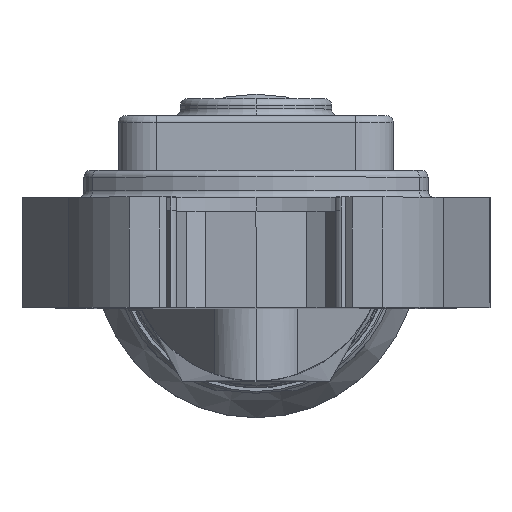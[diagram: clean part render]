
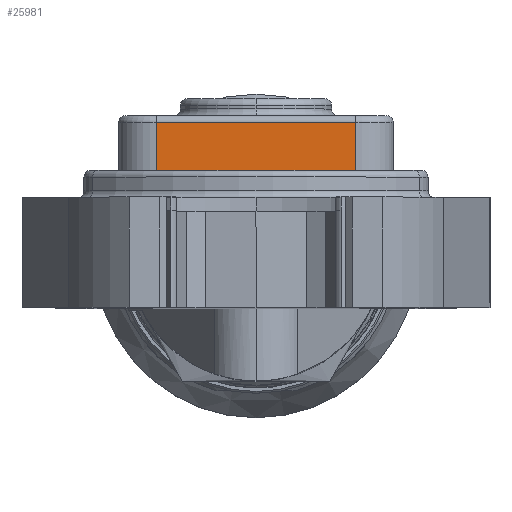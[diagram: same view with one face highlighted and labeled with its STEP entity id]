
A CAD part, top view. The second image highlights one B-rep face of the part: STEP entity #25981.
In plain terms, the highlighted planar face has unit normal (0, 0, 1).
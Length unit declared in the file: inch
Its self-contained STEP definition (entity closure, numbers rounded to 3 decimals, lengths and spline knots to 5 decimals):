
#3772 = ORIENTED_EDGE ( 'NONE', *, *, #21589, .F. ) ;
#3927 = DIRECTION ( 'NONE',  ( 0., -1., 0. ) ) ;
#4004 = CARTESIAN_POINT ( 'NONE',  ( 0.57087, 0.7874, 2.85757 ) ) ;
#4990 = ORIENTED_EDGE ( 'NONE', *, *, #17061, .T. ) ;
#8362 = ORIENTED_EDGE ( 'NONE', *, *, #21947, .T. ) ;
#8963 = EDGE_CURVE ( 'NONE', #18753, #46479, #57742, .T. ) ;
#9239 = DIRECTION ( 'NONE',  ( 0., -1., 0. ) ) ;
#9317 = DIRECTION ( 'NONE',  ( 0., 0., 1. ) ) ;
#9363 = CARTESIAN_POINT ( 'NONE',  ( 0.57087, 0.7874, 2.85757 ) ) ;
#9472 = ORIENTED_EDGE ( 'NONE', *, *, #8963, .F. ) ;
#9787 = PLANE ( 'NONE',  #31773 ) ;
#11093 = CARTESIAN_POINT ( 'NONE',  ( -0.57087, 0.74803, 2.85757 ) ) ;
#17061 = EDGE_CURVE ( 'NONE', #24137, #56154, #62264, .T. ) ;
#17340 = DIRECTION ( 'NONE',  ( -1., 0., 0. ) ) ;
#18753 = VERTEX_POINT ( 'NONE', #35369 ) ;
#19640 = CARTESIAN_POINT ( 'NONE',  ( -0.57087, 0.74803, 2.85757 ) ) ;
#21589 = EDGE_CURVE ( 'NONE', #24137, #18753, #59304, .T. ) ;
#21947 = EDGE_CURVE ( 'NONE', #56154, #46479, #42330, .T. ) ;
#24137 = VERTEX_POINT ( 'NONE', #59119 ) ;
#25981 = ADVANCED_FACE ( 'NONE', ( #36918 ), #9787, .T. ) ;
#27056 = DIRECTION ( 'NONE',  ( -1., 0., 0. ) ) ;
#27437 = CARTESIAN_POINT ( 'NONE',  ( -0.74803, 0.47244, 2.85757 ) ) ;
#31773 = AXIS2_PLACEMENT_3D ( 'NONE', #9363, #9317, #9239 ) ;
#35369 = CARTESIAN_POINT ( 'NONE',  ( 0.57087, 0.47244, 2.85757 ) ) ;
#36918 = FACE_OUTER_BOUND ( 'NONE', #45738, .T. ) ;
#42330 = LINE ( 'NONE', #44853, #42885 ) ;
#42885 = VECTOR ( 'NONE', #47953, 39.37008 ) ;
#44628 = CARTESIAN_POINT ( 'NONE',  ( -0.57087, 0.47244, 2.85757 ) ) ;
#44853 = CARTESIAN_POINT ( 'NONE',  ( -0.57087, 0.7874, 2.85757 ) ) ;
#45738 = EDGE_LOOP ( 'NONE', ( #3772, #4990, #8362, #9472 ) ) ;
#46479 = VERTEX_POINT ( 'NONE', #44628 ) ;
#47953 = DIRECTION ( 'NONE',  ( 0., -1., 0. ) ) ;
#56154 = VERTEX_POINT ( 'NONE', #11093 ) ;
#57015 = VECTOR ( 'NONE', #27056, 39.37008 ) ;
#57742 = LINE ( 'NONE', #27437, #57015 ) ;
#59119 = CARTESIAN_POINT ( 'NONE',  ( 0.57087, 0.74803, 2.85757 ) ) ;
#59240 = VECTOR ( 'NONE', #3927, 39.37008 ) ;
#59304 = LINE ( 'NONE', #4004, #59240 ) ;
#62264 = LINE ( 'NONE', #19640, #62945 ) ;
#62945 = VECTOR ( 'NONE', #17340, 39.37008 ) ;
